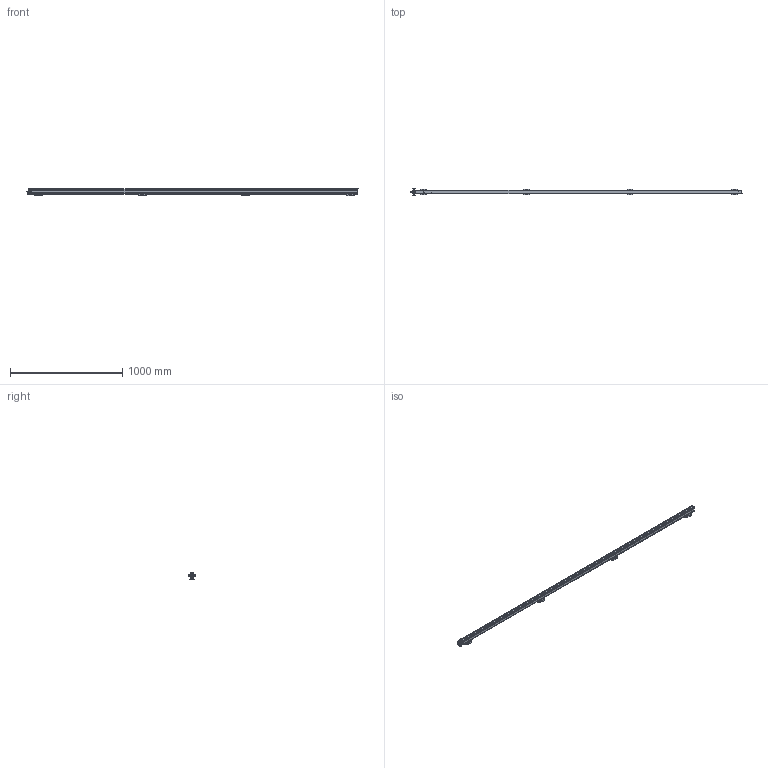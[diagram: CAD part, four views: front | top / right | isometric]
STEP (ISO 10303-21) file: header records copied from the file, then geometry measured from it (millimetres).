
FILE_DESCRIPTION(/* description */ (''),/* implementation_level */ '2;1');
FILE_NAME(/* name */ 'PERFORMAXEASYEX_2730_3D_GB',/* time_stamp */ '2017-05-31T09:55:39+02:00',/* author */ (''),/* organization */ (''),/* preprocessor_version */ 'ST-DEVELOPER v15.7',/* originating_system */ 'HiCAD 2015 2002.1 Build 408',/* authorisation */ '');
FILE_SCHEMA (('AUTOMOTIVE_DESIGN { 1 0 10303 214 1 1 1 1 }'));
Length unit declared in the file: millimetre
Products named in the file (75): Root; -_Performax (IQ) Easy Ex 2730 eff (Speed); -_LED; -_PROFILE; -_POTTING; -_CAP DE; -_CAP CE; -_CABLE; -_PIN; -_COVER; 4532000100_Mounting bracket bars; -_Side piece; -_Slide piece; -_Bracket small; DIN 13-M3; DIN 76-M3; 2047507823_PE connection; DIN 916-M4x20-45H_Set screws; GEWINDE; ISO 8738-4-160 HV_Washers for studs; ISO 4032-M4-10_Hexagon nuts; DIN 127-A 4-FSt_Washers; 2047493713_Cable exits; -_Exit K; -_Clip; -_Gland body; -_Exit S; -_Exit Q; -_Washer ø20mm, 5mm thick for corr. conduit (exit
 Q); -_Exit I; -_Exit U; -_Exit A; Thread_2
Assembly tree (74 placements, depth 5):
  Root
    -_Performax (IQ) Easy Ex 2730 eff (Speed)
      -_LED
      -_PROFILE
      -_POTTING
      -_CAP DE
      -_CAP CE
      -_CABLE
      -_PIN
      -_PIN
      -_COVER
      4532000100_Mounting bracket bars
        -_Side piece
        -_Side piece
        -_Slide piece
        -_Bracket small
          DIN 13-M3
          DIN 13-M3
          DIN 76-M3
          DIN 76-M3
      4532000100_Mounting bracket bars
        -_Side piece
        -_Side piece
        -_Slide piece
        -_Bracket small
          DIN 13-M3
          DIN 13-M3
          DIN 76-M3
          DIN 76-M3
      4532000100_Mounting bracket bars
        -_Side piece
        -_Side piece
        -_Slide piece
        -_Bracket small
          DIN 13-M3
          DIN 13-M3
          DIN 76-M3
          DIN 76-M3
      4532000100_Mounting bracket bars
        -_Side piece
        -_Side piece
        -_Slide piece
        -_Bracket small
          DIN 13-M3
          DIN 13-M3
          DIN 76-M3
          DIN 76-M3
      2047507823_PE connection
        DIN 916-M4x20-45H_Set screws
          GEWINDE
        ISO 8738-4-160 HV_Washers for studs
        ISO 4032-M4-10_Hexagon nuts
          GEWINDE
        DIN 127-A 4-FSt_Washers
        ISO 4032-M4-10_Hexagon nuts
          GEWINDE
      2047493713_Cable exits
        -_Exit K
          -_Clip
          -_Gland body
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Bounding box: 2952.4 x 58.79 x 68.9 mm (x, y, z)
Volume: 3550472.4 mm3; surface area: 995203.1 mm2
Topology: 63 solids, 75 shells, 3239 faces, 8266 edges, 4990 vertices
Faces by surface type: plane 1391, cylinder 1323, torus 177, sphere 165, bspline 128, cone 55
Full cylindrical faces by diameter (mm): 2.387 x16, 3 x32, 3.141 x4, 4 x5, 4.3 x1, 5.4 x2, 5.5 x20, 8 x2, 11.3 x4, 12.5 x4, 13 x1, 14.6 x5, 15.1 x5, 18.4 x4, 20 x7, 20.2 x4
Entity records: 176187 total; most frequent: CARTESIAN_POINT 35942, DIRECTION 16546, PRESENTATION_STYLE_ASSIGNMENT 15725, OVER_RIDING_STYLED_ITEM 15663, DRAUGHTING_PRE_DEFINED_CURVE_FONT 15640, CURVE_STYLE 15640, ORIENTED_EDGE 15640, EDGE_CURVE 7820
